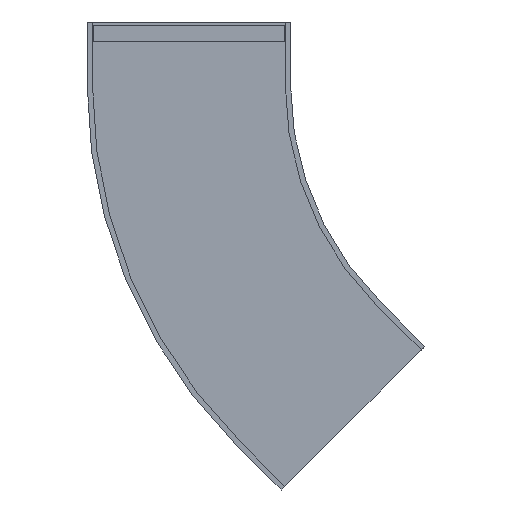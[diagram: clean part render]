
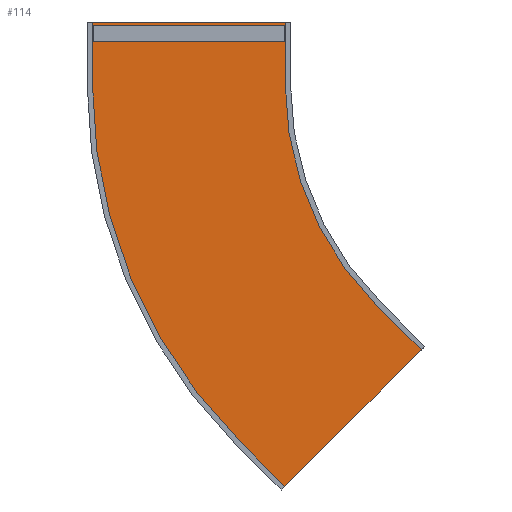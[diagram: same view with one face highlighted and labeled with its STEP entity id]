
A CAD part, front view. The second image highlights one B-rep face of the part: STEP entity #114.
In plain terms, the highlighted planar face has unit normal (0, -1, 0).
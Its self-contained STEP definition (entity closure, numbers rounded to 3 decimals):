
#114 = ADVANCED_FACE ( 'NONE', ( #3797 ), #2187, .T. ) ;
#221 = CARTESIAN_POINT ( 'NONE',  ( -321., -57.525, 0. ) ) ;
#253 = CARTESIAN_POINT ( 'NONE',  ( 749.164, -57.525, -1033.679 ) ) ;
#328 = CARTESIAN_POINT ( 'NONE',  ( 295.201, -57.525, -1487.641 ) ) ;
#352 = CARTESIAN_POINT ( 'NONE',  ( 607.742, -57.525, -892.258 ) ) ;
#618 = DIRECTION ( 'NONE',  ( 0.707, 0., -0.707 ) ) ;
#619 = CARTESIAN_POINT ( 'NONE',  ( 153.78, -57.525, -1346.22 ) ) ;
#635 = DIRECTION ( 'NONE',  ( 0.707, 0., -0.707 ) ) ;
#636 = CARTESIAN_POINT ( 'NONE',  ( 607.742, -57.525, -892.258 ) ) ;
#815 = CARTESIAN_POINT ( 'NONE',  ( 321., -57.525, -200. ) ) ;
#840 = CARTESIAN_POINT ( 'NONE',  ( 153.78, -57.525, -1346.22 ) ) ;
#842 = CARTESIAN_POINT ( 'NONE',  ( 321., -57.525, 0. ) ) ;
#958 = CARTESIAN_POINT ( 'NONE',  ( -321., -57.525, -200. ) ) ;
#1492 = VECTOR ( 'NONE', #4801, 1000. ) ;
#1493 = LINE ( 'NONE', #4802, #1492 ) ;
#1494 = VECTOR ( 'NONE', #4803, 1000. ) ;
#1495 = LINE ( 'NONE', #4804, #1494 ) ;
#1496 = VECTOR ( 'NONE', #4805, 1000. ) ;
#1497 = LINE ( 'NONE', #4806, #1496 ) ;
#1498 = VECTOR ( 'NONE', #4807, 1000. ) ;
#1499 = LINE ( 'NONE', #4808, #1498 ) ;
#1767 = CIRCLE ( 'NONE', #5314, 1621. ) ;
#1773 = CIRCLE ( 'NONE', #5317, 979. ) ;
#1797 = VECTOR ( 'NONE', #635, 1000. ) ;
#1981 = LINE ( 'NONE', #636, #1797 ) ;
#2098 = VECTOR ( 'NONE', #618, 1000. ) ;
#2099 = LINE ( 'NONE', #619, #2098 ) ;
#2184 = DIRECTION ( 'NONE',  ( 1., 0., 0. ) ) ;
#2185 = DIRECTION ( 'NONE',  ( 0., -1., 0. ) ) ;
#2186 = CARTESIAN_POINT ( 'NONE',  ( 321., -57.525, -200. ) ) ;
#2187 = PLANE ( 'NONE',  #5378 ) ;
#2645 = VERTEX_POINT ( 'NONE', #352 ) ;
#2654 = VERTEX_POINT ( 'NONE', #328 ) ;
#2685 = VERTEX_POINT ( 'NONE', #253 ) ;
#2695 = VERTEX_POINT ( 'NONE', #221 ) ;
#2760 = VERTEX_POINT ( 'NONE', #958 ) ;
#2862 = VERTEX_POINT ( 'NONE', #842 ) ;
#2864 = VERTEX_POINT ( 'NONE', #840 ) ;
#2886 = VERTEX_POINT ( 'NONE', #815 ) ;
#3388 = EDGE_LOOP ( 'NONE', ( #4251, #4252, #4255, #4256, #4257, #4258, #4261, #4262 ) ) ;
#3797 = FACE_OUTER_BOUND ( 'NONE', #3388, .T. ) ;
#4251 = ORIENTED_EDGE ( 'NONE', *, *, #6038, .F. ) ;
#4252 = ORIENTED_EDGE ( 'NONE', *, *, #6039, .F. ) ;
#4255 = ORIENTED_EDGE ( 'NONE', *, *, #5690, .T. ) ;
#4256 = ORIENTED_EDGE ( 'NONE', *, *, #5534, .T. ) ;
#4257 = ORIENTED_EDGE ( 'NONE', *, *, #6040, .T. ) ;
#4258 = ORIENTED_EDGE ( 'NONE', *, *, #5528, .F. ) ;
#4261 = ORIENTED_EDGE ( 'NONE', *, *, #5686, .F. ) ;
#4262 = ORIENTED_EDGE ( 'NONE', *, *, #6037, .T. ) ;
#4801 = DIRECTION ( 'NONE',  ( 0.707, 0., 0.707 ) ) ;
#4802 = CARTESIAN_POINT ( 'NONE',  ( 749.164, -57.525, -1033.679 ) ) ;
#4803 = DIRECTION ( 'NONE',  ( 0., 0., 1. ) ) ;
#4804 = CARTESIAN_POINT ( 'NONE',  ( -321., -57.525, -200. ) ) ;
#4805 = DIRECTION ( 'NONE',  ( 1., 0., 0. ) ) ;
#4806 = CARTESIAN_POINT ( 'NONE',  ( 321., -57.525, 0. ) ) ;
#4807 = DIRECTION ( 'NONE',  ( 0., 0., 1. ) ) ;
#4808 = CARTESIAN_POINT ( 'NONE',  ( 321., -57.525, -200. ) ) ;
#5314 = AXIS2_PLACEMENT_3D ( 'NONE', #5881, #5880, #5878 ) ;
#5317 = AXIS2_PLACEMENT_3D ( 'NONE', #5733, #5729, #5895 ) ;
#5378 = AXIS2_PLACEMENT_3D ( 'NONE', #2186, #2185, #2184 ) ;
#5528 = EDGE_CURVE ( 'NONE', #2645, #2685, #1981, .T. ) ;
#5534 = EDGE_CURVE ( 'NONE', #2864, #2654, #2099, .T. ) ;
#5686 = EDGE_CURVE ( 'NONE', #2886, #2645, #1773, .T. ) ;
#5690 = EDGE_CURVE ( 'NONE', #2760, #2864, #1767, .T. ) ;
#5729 = DIRECTION ( 'NONE',  ( 0., -1., 0. ) ) ;
#5733 = CARTESIAN_POINT ( 'NONE',  ( 1300., -57.525, -200. ) ) ;
#5878 = DIRECTION ( 'NONE',  ( 0., 0., -1. ) ) ;
#5880 = DIRECTION ( 'NONE',  ( 0., -1., 0. ) ) ;
#5881 = CARTESIAN_POINT ( 'NONE',  ( 1300., -57.525, -200. ) ) ;
#5895 = DIRECTION ( 'NONE',  ( 0., 0., -1. ) ) ;
#6037 = EDGE_CURVE ( 'NONE', #2886, #2862, #1499, .T. ) ;
#6038 = EDGE_CURVE ( 'NONE', #2695, #2862, #1497, .T. ) ;
#6039 = EDGE_CURVE ( 'NONE', #2760, #2695, #1495, .T. ) ;
#6040 = EDGE_CURVE ( 'NONE', #2654, #2685, #1493, .T. ) ;
